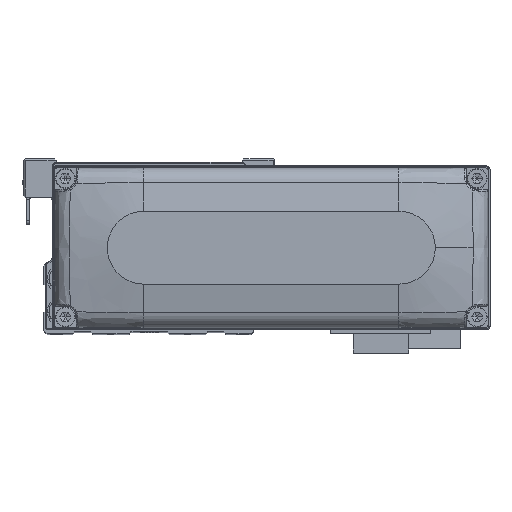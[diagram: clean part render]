
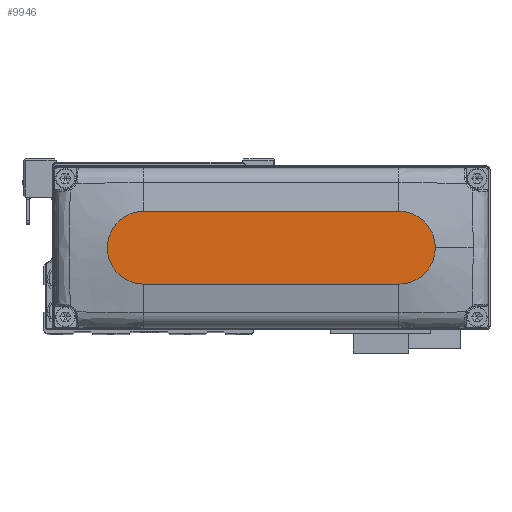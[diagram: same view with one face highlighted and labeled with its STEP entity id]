
A CAD part, top view. The second image highlights one B-rep face of the part: STEP entity #9946.
In plain terms, the highlighted planar face has unit normal (0, 0, 1).
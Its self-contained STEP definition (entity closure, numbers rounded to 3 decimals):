
#289 = CARTESIAN_POINT ( 'NONE',  ( -35., -10., 28. ) ) ;
#742 = VERTEX_POINT ( 'NONE', #4960 ) ;
#864 = DIRECTION ( 'NONE',  ( 0., 0., 1. ) ) ;
#1393 = ORIENTED_EDGE ( 'NONE', *, *, #31018, .T. ) ;
#1992 = CARTESIAN_POINT ( 'NONE',  ( 0., 0., 28. ) ) ;
#3044 = EDGE_CURVE ( 'NONE', #742, #28719, #25069, .T. ) ;
#4105 = CARTESIAN_POINT ( 'NONE',  ( 35., -10., 28. ) ) ;
#4960 = CARTESIAN_POINT ( 'NONE',  ( -35., -10., 28. ) ) ;
#5107 = DIRECTION ( 'NONE',  ( 0., 0., 1. ) ) ;
#5202 = DIRECTION ( 'NONE',  ( 0., 0., 1. ) ) ;
#5503 = LINE ( 'NONE', #16557, #15881 ) ;
#5507 = ORIENTED_EDGE ( 'NONE', *, *, #12878, .T. ) ;
#5777 = CARTESIAN_POINT ( 'NONE',  ( 45., 0., 28. ) ) ;
#7138 = VERTEX_POINT ( 'NONE', #5777 ) ;
#9946 = ADVANCED_FACE ( 'NONE', ( #15743 ), #26785, .T. ) ;
#10273 = AXIS2_PLACEMENT_3D ( 'NONE', #29891, #5107, #16154 ) ;
#10764 = EDGE_CURVE ( 'NONE', #28719, #7138, #25869, .T. ) ;
#11171 = AXIS2_PLACEMENT_3D ( 'NONE', #1992, #13031, #24079 ) ;
#11328 = DIRECTION ( 'NONE',  ( 1., 0., 0. ) ) ;
#11455 = CARTESIAN_POINT ( 'NONE',  ( -35., 10., 28. ) ) ;
#11902 = DIRECTION ( 'NONE',  ( 1., 0., 0. ) ) ;
#12284 = AXIS2_PLACEMENT_3D ( 'NONE', #29991, #5202, #16245 ) ;
#12878 = EDGE_CURVE ( 'NONE', #31540, #742, #27881, .T. ) ;
#13031 = DIRECTION ( 'NONE',  ( 0., 0., 1. ) ) ;
#13065 = EDGE_CURVE ( 'NONE', #7138, #27125, #16344, .T. ) ;
#13352 = CARTESIAN_POINT ( 'NONE',  ( 35., 10., 28. ) ) ;
#15743 = FACE_OUTER_BOUND ( 'NONE', #26592, .T. ) ;
#15881 = VECTOR ( 'NONE', #27585, 1000. ) ;
#16154 = DIRECTION ( 'NONE',  ( 1., 0., 0. ) ) ;
#16245 = DIRECTION ( 'NONE',  ( 1., 0., 0. ) ) ;
#16344 = CIRCLE ( 'NONE', #20969, 10. ) ;
#16557 = CARTESIAN_POINT ( 'NONE',  ( -35., 10., 28. ) ) ;
#20969 = AXIS2_PLACEMENT_3D ( 'NONE', #25653, #864, #11902 ) ;
#23200 = ORIENTED_EDGE ( 'NONE', *, *, #3044, .T. ) ;
#24079 = DIRECTION ( 'NONE',  ( 1., 0., 0. ) ) ;
#25069 = LINE ( 'NONE', #289, #27921 ) ;
#25653 = CARTESIAN_POINT ( 'NONE',  ( 35., 0., 28. ) ) ;
#25869 = CIRCLE ( 'NONE', #10273, 10. ) ;
#25937 = ORIENTED_EDGE ( 'NONE', *, *, #13065, .T. ) ;
#26592 = EDGE_LOOP ( 'NONE', ( #1393, #5507, #23200, #33043, #25937 ) ) ;
#26785 = PLANE ( 'NONE',  #11171 ) ;
#27125 = VERTEX_POINT ( 'NONE', #13352 ) ;
#27585 = DIRECTION ( 'NONE',  ( -1., 0., 0. ) ) ;
#27881 = CIRCLE ( 'NONE', #12284, 10. ) ;
#27921 = VECTOR ( 'NONE', #11328, 1000. ) ;
#28719 = VERTEX_POINT ( 'NONE', #4105 ) ;
#29891 = CARTESIAN_POINT ( 'NONE',  ( 35., 0., 28. ) ) ;
#29991 = CARTESIAN_POINT ( 'NONE',  ( -35., 0., 28. ) ) ;
#31018 = EDGE_CURVE ( 'NONE', #27125, #31540, #5503, .T. ) ;
#31540 = VERTEX_POINT ( 'NONE', #11455 ) ;
#33043 = ORIENTED_EDGE ( 'NONE', *, *, #10764, .T. ) ;
